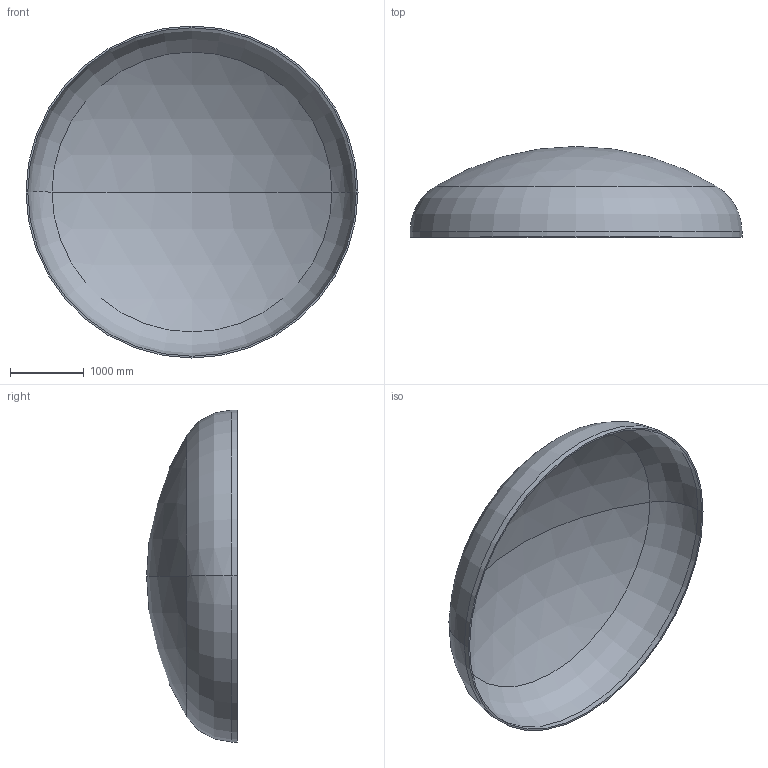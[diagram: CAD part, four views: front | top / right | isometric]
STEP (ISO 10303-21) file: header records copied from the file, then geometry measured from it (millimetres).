
FILE_DESCRIPTION (( 'STEP AP203' ), '1' );
FILE_NAME ('DIN 28013 Korbbogenform_-_Boden DIN 28013 - 4500 x 75 - I - s=24.step', '2016-07-01T23:11:58', ( '' ), ( '' ), 'SwSTEP 2.0', 'SolidWorks 2013', '' );
FILE_SCHEMA (( 'CONFIG_CONTROL_DESIGN' ));
Length unit declared in the file: millimetre
Products named in the file (1): DIN 28013 Korbbogenform_-_Boden DIN 28013 - 4500 x 75 - I - s=24
Bounding box: 4500 x 1230.18 x 4500 mm (x, y, z)
Volume: 550562081.9 mm3; surface area: 46218844.3 mm2
Topology: 1 solids, 1 shells, 13 faces, 24 edges, 14 vertices
Faces by surface type: torus 4, cylinder 4, sphere 4, plane 1
Entity records: 407 total; most frequent: DIRECTION 72, CARTESIAN_POINT 52, ORIENTED_EDGE 48, AXIS2_PLACEMENT_3D 34, EDGE_CURVE 24, CIRCLE 20, VERTEX_POINT 14, EDGE_LOOP 14
